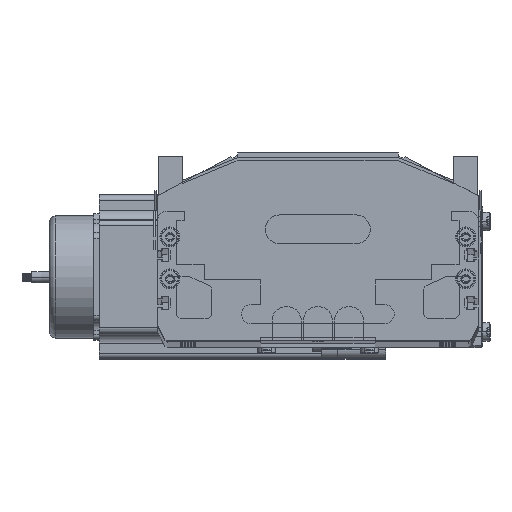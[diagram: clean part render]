
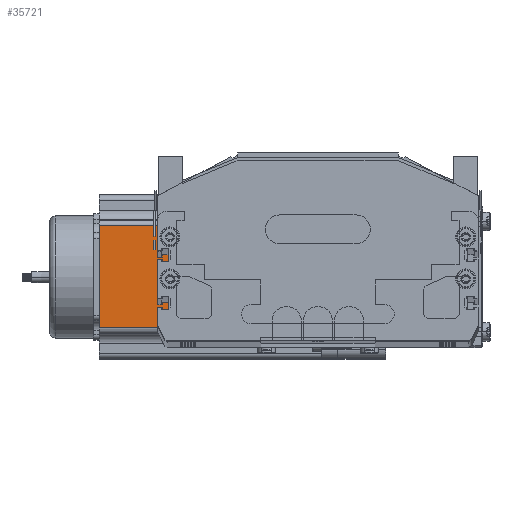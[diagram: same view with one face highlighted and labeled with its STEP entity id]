
A CAD part, top view. The second image highlights one B-rep face of the part: STEP entity #35721.
In plain terms, the highlighted planar face has unit normal (0, 0, 1) as drawn and (0, -1, 0) by its records, which use the part's own axes.
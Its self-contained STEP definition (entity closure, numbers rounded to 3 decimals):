
#16208 = CARTESIAN_POINT ( 'NONE',  ( 69.74, 0., 0. ) ) ;
#16209 = CARTESIAN_POINT ( 'NONE',  ( 16.16, 0., 0. ) ) ;
#16288 = CARTESIAN_POINT ( 'NONE',  ( 16.16, 0., 116.5 ) ) ;
#35689 = VERTEX_POINT ( 'NONE', #45277 ) ;
#35691 = ORIENTED_EDGE ( 'NONE', *, *, #35726, .T. ) ;
#35721 = ADVANCED_FACE ( 'NONE', ( #45419 ), #45472, .F. ) ;
#35725 = ORIENTED_EDGE ( 'NONE', *, *, #36091, .T. ) ;
#35726 = EDGE_CURVE ( 'NONE', #35824, #35689, #45470, .T. ) ;
#35811 = VERTEX_POINT ( 'NONE', #16288 ) ;
#35823 = VERTEX_POINT ( 'NONE', #16209 ) ;
#35824 = VERTEX_POINT ( 'NONE', #16208 ) ;
#35835 = ORIENTED_EDGE ( 'NONE', *, *, #35941, .T. ) ;
#35892 = EDGE_LOOP ( 'NONE', ( #35725, #35691, #35953, #35835 ) ) ;
#35925 = EDGE_CURVE ( 'NONE', #35811, #35689, #80478, .T. ) ;
#35941 = EDGE_CURVE ( 'NONE', #35811, #35823, #80458, .T. ) ;
#35953 = ORIENTED_EDGE ( 'NONE', *, *, #35925, .F. ) ;
#36091 = EDGE_CURVE ( 'NONE', #35823, #35824, #68126, .T. ) ;
#45277 = CARTESIAN_POINT ( 'NONE',  ( 69.74, 0., 116.5 ) ) ;
#45419 = FACE_OUTER_BOUND ( 'NONE', #35892, .T. ) ;
#45428 = DIRECTION ( 'NONE',  ( 0., 1., 0. ) ) ;
#45430 = CARTESIAN_POINT ( 'NONE',  ( 0., 0., 116.5 ) ) ;
#45452 = AXIS2_PLACEMENT_3D ( 'NONE', #45430, #45428, #45461 ) ;
#45461 = DIRECTION ( 'NONE',  ( 0., 0., 1. ) ) ;
#45470 = LINE ( 'NONE', #45574, #45572 ) ;
#45472 = PLANE ( 'NONE',  #45452 ) ;
#45570 = DIRECTION ( 'NONE',  ( 0., 0., 1. ) ) ;
#45572 = VECTOR ( 'NONE', #45570, 1000. ) ;
#45574 = CARTESIAN_POINT ( 'NONE',  ( 69.74, 0., 116.5 ) ) ;
#68125 = CARTESIAN_POINT ( 'NONE',  ( 0., 0., 0. ) ) ;
#68126 = LINE ( 'NONE', #68125, #68198 ) ;
#68197 = DIRECTION ( 'NONE',  ( 1., 0., 0. ) ) ;
#68198 = VECTOR ( 'NONE', #68197, 1000. ) ;
#80457 = CARTESIAN_POINT ( 'NONE',  ( 16.16, 0., 116.5 ) ) ;
#80458 = LINE ( 'NONE', #80457, #80470 ) ;
#80469 = DIRECTION ( 'NONE',  ( 0., 0., -1. ) ) ;
#80470 = VECTOR ( 'NONE', #80469, 1000. ) ;
#80472 = DIRECTION ( 'NONE',  ( 1., 0., 0. ) ) ;
#80473 = VECTOR ( 'NONE', #80472, 1000. ) ;
#80477 = CARTESIAN_POINT ( 'NONE',  ( 0., 0., 116.5 ) ) ;
#80478 = LINE ( 'NONE', #80477, #80473 ) ;
